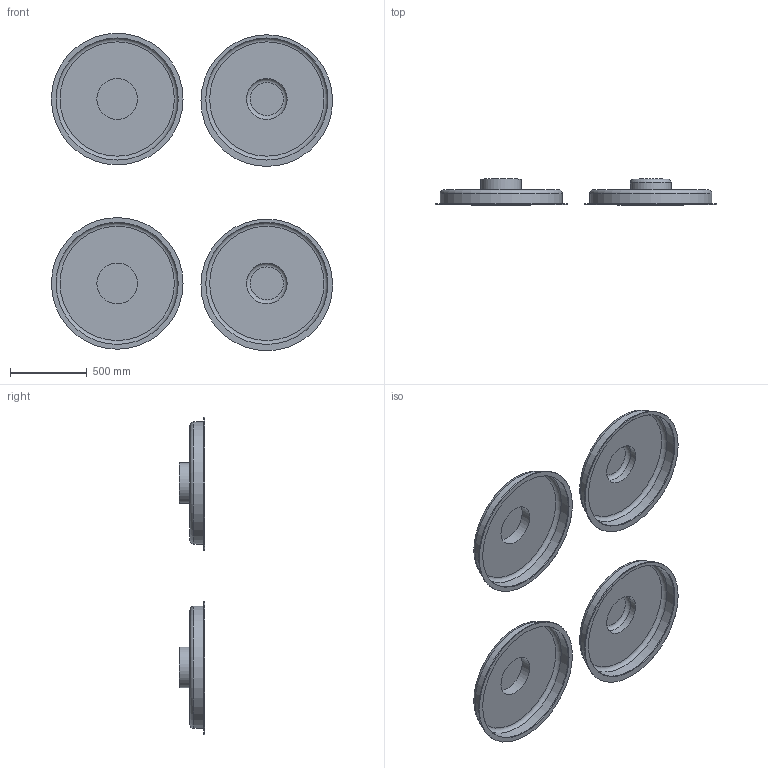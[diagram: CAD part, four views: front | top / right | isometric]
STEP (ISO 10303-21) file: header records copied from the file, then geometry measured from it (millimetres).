
FILE_DESCRIPTION(/* description */ (''),/* implementation_level */ '2;1');
FILE_NAME(/* name */ 'L:\DSGN\Revit Content\Mechanical Components\BAC\R2016\TSDC-II\TSDC-II-CO2-2x2-Front.stp',/* time_stamp */ '2019-02-06T09:24:22+01:00',/* author */ ('jvandermieren'),/* organization */ (''),/* preprocessor_version */ 'ST-DEVELOPER v16.5',/* originating_system */ 'Autodesk Inventor 2017',/* authorisation */ '');
FILE_SCHEMA (('AUTOMOTIVE_DESIGN { 1 0 10303 214 3 1 1 }'));
Length unit declared in the file: inch
Products named in the file (1): TSDC-II-Fluid-Flanged-2X7-Back
Bounding box: 1830.83 x 166.37 x 2067.48 mm (x, y, z)
Volume: 2050552.4 mm3; surface area: 6755546.3 mm2
Topology: 4 solids, 8 shells, 38 faces, 56 edges, 34 vertices
Faces by surface type: plane 16, cylinder 16, torus 6
Full cylindrical faces by diameter (mm): 265.176 x4, 794.766 x8, 856.996 x4
Entity records: 4397 total; most frequent: CARTESIAN_POINT 727, DIRECTION 712, ORIENTED_EDGE 660, EDGE_CURVE 326, LINE 270, VECTOR 270, EDGE_LOOP 238, VERTEX_POINT 236
